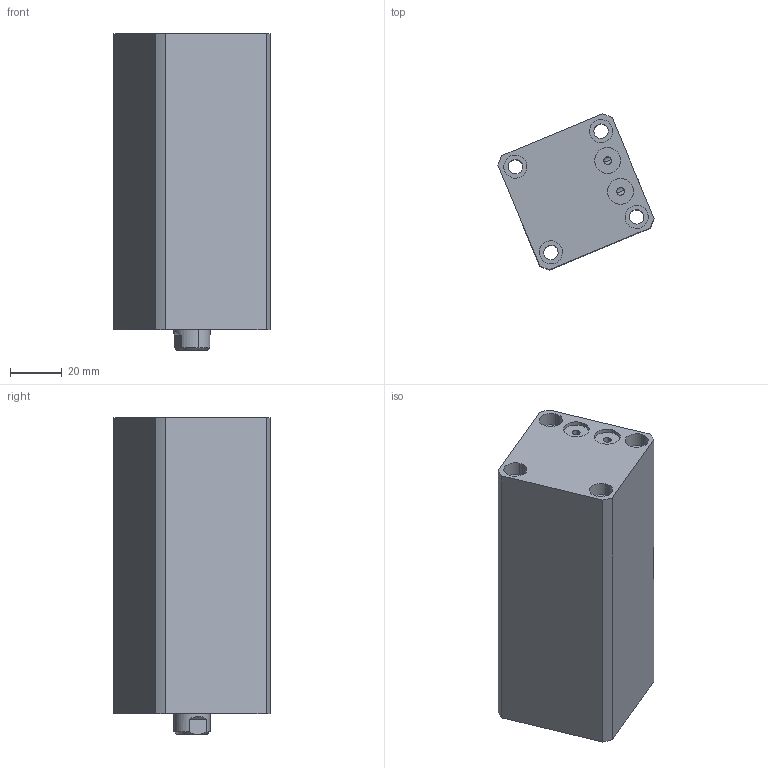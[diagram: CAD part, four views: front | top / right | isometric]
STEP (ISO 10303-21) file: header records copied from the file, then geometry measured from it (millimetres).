
FILE_DESCRIPTION (( 'STEP AP214' ), '1' );
FILE_NAME ('chtb-sdmb25x70n_asm.STEP', '2018-05-24T01:40:14', ( 'Windows' ), ( 'Microsoft' ), 'SwSTEP 2.0', 'SolidWorks 2015', '' );
FILE_SCHEMA (( 'AUTOMOTIVE_DESIGN' ));
Length unit declared in the file: millimetre
Products named in the file (4): chtb-sdmb25x70n_asm; CHTB-SDMB25X70NHSG; CHTB-SDMB25X70NBT; CHTB-25QG
Assembly tree (3 placements, depth 2):
  chtb-sdmb25x70n_asm
    CHTB-25QG
    CHTB-SDMB25X70NBT
    CHTB-SDMB25X70NHSG
Bounding box: 60.55 x 60.55 x 123 mm (x, y, z)
Volume: 224023.4 mm3; surface area: 56946.7 mm2
Topology: 3 solids, 3 shells, 142 faces, 379 edges, 257 vertices
Faces by surface type: cylinder 89, plane 34, bspline 10, cone 9
Entity records: 8024 total; most frequent: CARTESIAN_POINT 4397, ORIENTED_EDGE 746, DIRECTION 661, EDGE_CURVE 373, AXIS2_PLACEMENT_3D 272, VERTEX_POINT 257, EDGE_LOOP 180, FACE_OUTER_BOUND 142
